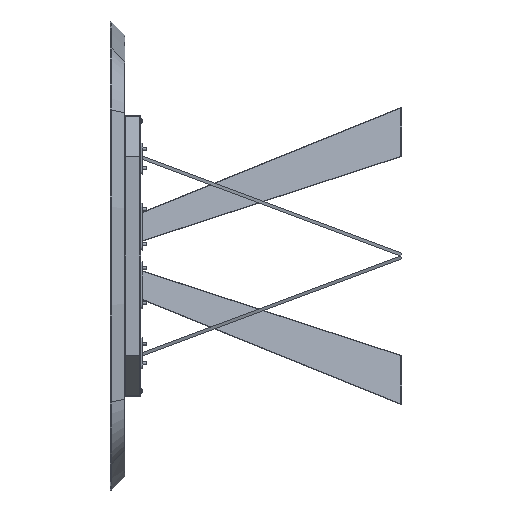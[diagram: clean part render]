
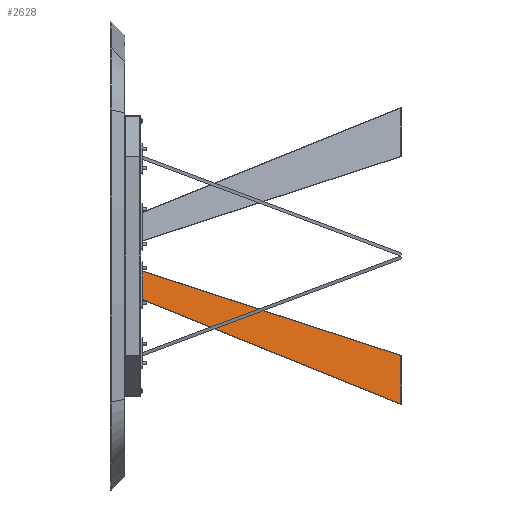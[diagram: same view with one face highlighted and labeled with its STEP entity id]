
A CAD part, left-side view. The second image highlights one B-rep face of the part: STEP entity #2628.
In plain terms, the highlighted planar face has unit normal (-0.937, -0.35, 0) as drawn and (-1, 0, 0) by its records, which use the part's own axes.
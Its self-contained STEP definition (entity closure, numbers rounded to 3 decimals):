
#179 = AXIS2_PLACEMENT_3D ( 'NONE', #18756, #8230, #9886 ) ;
#679 = DIRECTION ( 'NONE',  ( 0., 0.292, 0.956 ) ) ;
#725 = ORIENTED_EDGE ( 'NONE', *, *, #2261, .F. ) ;
#742 = CARTESIAN_POINT ( 'NONE',  ( -4., 794., 0. ) ) ;
#779 = CARTESIAN_POINT ( 'NONE',  ( -4., 0., 0. ) ) ;
#2261 = EDGE_CURVE ( 'NONE', #16559, #4682, #6973, .T. ) ;
#2628 = ADVANCED_FACE ( 'NONE', ( #12411 ), #3811, .F. ) ;
#3466 = DIRECTION ( 'NONE',  ( 0., -0.998, -0.066 ) ) ;
#3811 = PLANE ( 'NONE',  #179 ) ;
#3896 = EDGE_CURVE ( 'NONE', #4682, #10914, #13128, .T. ) ;
#3938 = CARTESIAN_POINT ( 'NONE',  ( -4., 51.777, 0. ) ) ;
#3961 = VERTEX_POINT ( 'NONE', #14885 ) ;
#4682 = VERTEX_POINT ( 'NONE', #742 ) ;
#4841 = CARTESIAN_POINT ( 'NONE',  ( -4., 830.546, 119.538 ) ) ;
#5512 = DIRECTION ( 'NONE',  ( 0., 0.292, 0.956 ) ) ;
#6644 = ORIENTED_EDGE ( 'NONE', *, *, #9509, .F. ) ;
#6973 = LINE ( 'NONE', #779, #8928 ) ;
#8230 = DIRECTION ( 'NONE',  ( 1., 0., 0. ) ) ;
#8928 = VECTOR ( 'NONE', #15553, 1000. ) ;
#9003 = ORIENTED_EDGE ( 'NONE', *, *, #10870, .T. ) ;
#9509 = EDGE_CURVE ( 'NONE', #10914, #3961, #16848, .T. ) ;
#9886 = DIRECTION ( 'NONE',  ( 0., 0., -1. ) ) ;
#10870 = EDGE_CURVE ( 'NONE', #16559, #3961, #12518, .T. ) ;
#10902 = ORIENTED_EDGE ( 'NONE', *, *, #3896, .F. ) ;
#10914 = VERTEX_POINT ( 'NONE', #17199 ) ;
#12411 = FACE_OUTER_BOUND ( 'NONE', #15291, .T. ) ;
#12518 = LINE ( 'NONE', #13987, #15945 ) ;
#13128 = LINE ( 'NONE', #17626, #16160 ) ;
#13987 = CARTESIAN_POINT ( 'NONE',  ( -4., 47.351, -14.477 ) ) ;
#14885 = CARTESIAN_POINT ( 'NONE',  ( -4., 73.118, 69.801 ) ) ;
#15277 = VECTOR ( 'NONE', #3466, 1000. ) ;
#15291 = EDGE_LOOP ( 'NONE', ( #725, #9003, #6644, #10902 ) ) ;
#15553 = DIRECTION ( 'NONE',  ( 0., 1., 0. ) ) ;
#15945 = VECTOR ( 'NONE', #679, 1000. ) ;
#16160 = VECTOR ( 'NONE', #5512, 1000. ) ;
#16559 = VERTEX_POINT ( 'NONE', #3938 ) ;
#16848 = LINE ( 'NONE', #4841, #15277 ) ;
#17199 = CARTESIAN_POINT ( 'NONE',  ( -4., 830.546, 119.538 ) ) ;
#17626 = CARTESIAN_POINT ( 'NONE',  ( -4., 794., 0. ) ) ;
#18756 = CARTESIAN_POINT ( 'NONE',  ( -4., 0., 0. ) ) ;
